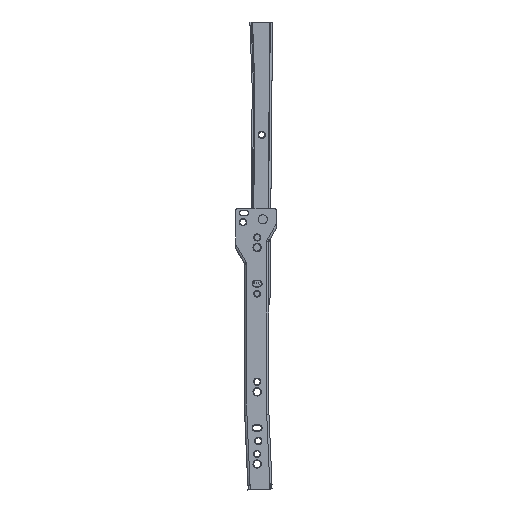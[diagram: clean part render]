
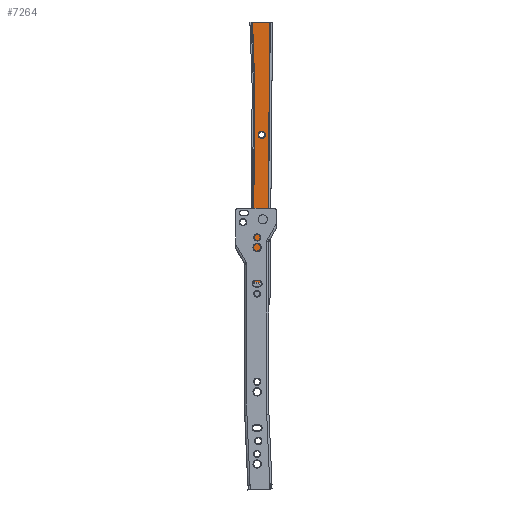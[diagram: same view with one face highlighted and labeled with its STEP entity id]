
A CAD part, left-side view. The second image highlights one B-rep face of the part: STEP entity #7264.
In plain terms, the highlighted planar face has unit normal (-1, 0, 0) as drawn and (0, 0, -1) by its records, which use the part's own axes.
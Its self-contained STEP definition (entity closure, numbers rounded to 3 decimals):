
#665=LINE('',#11921,#1195);
#666=LINE('',#11923,#1196);
#667=LINE('',#11925,#1197);
#668=LINE('',#11927,#1198);
#669=LINE('',#11931,#1199);
#670=LINE('',#11935,#1200);
#671=LINE('',#11938,#1201);
#1195=VECTOR('',#9692,250.);
#1196=VECTOR('',#9693,15.674);
#1197=VECTOR('',#9694,59.004);
#1198=VECTOR('',#9695,169.19);
#1199=VECTOR('',#9698,2.6);
#1200=VECTOR('',#9701,15.5);
#1201=VECTOR('',#9704,16.);
#1467=PLANE('',#7951);
#1620=FACE_BOUND('',#2498,.T.);
#1621=FACE_BOUND('',#2499,.T.);
#1622=FACE_BOUND('',#2500,.T.);
#1984=FACE_OUTER_BOUND('',#2497,.T.);
#2497=EDGE_LOOP('',(#5927,#5928,#5929,#5930,#5931,#5932,#5933,#5934,#5935,
#5936));
#2498=EDGE_LOOP('',(#5937));
#2499=EDGE_LOOP('',(#5938));
#2500=EDGE_LOOP('',(#5939));
#2950=CIRCLE('',#7950,3.2);
#2951=CIRCLE('',#7952,1.2);
#2952=CIRCLE('',#7953,2.);
#2953=CIRCLE('',#7954,2.);
#2954=CIRCLE('',#7955,3.2);
#2955=CIRCLE('',#7956,3.5);
#3484=VERTEX_POINT('',#11916);
#3485=VERTEX_POINT('',#11919);
#3486=VERTEX_POINT('',#11920);
#3487=VERTEX_POINT('',#11922);
#3488=VERTEX_POINT('',#11924);
#3489=VERTEX_POINT('',#11926);
#3490=VERTEX_POINT('',#11928);
#3491=VERTEX_POINT('',#11930);
#3492=VERTEX_POINT('',#11932);
#3493=VERTEX_POINT('',#11934);
#3494=VERTEX_POINT('',#11936);
#3495=VERTEX_POINT('',#11939);
#3496=VERTEX_POINT('',#11941);
#4342=EDGE_CURVE('',#3484,#3484,#2950,.T.);
#4343=EDGE_CURVE('',#3485,#3486,#665,.T.);
#4344=EDGE_CURVE('',#3487,#3485,#666,.T.);
#4345=EDGE_CURVE('',#3488,#3487,#667,.T.);
#4346=EDGE_CURVE('',#3489,#3488,#668,.T.);
#4347=EDGE_CURVE('',#3490,#3489,#2951,.T.);
#4348=EDGE_CURVE('',#3491,#3490,#669,.T.);
#4349=EDGE_CURVE('',#3492,#3491,#2952,.T.);
#4350=EDGE_CURVE('',#3493,#3492,#670,.T.);
#4351=EDGE_CURVE('',#3494,#3493,#2953,.T.);
#4352=EDGE_CURVE('',#3486,#3494,#671,.T.);
#4353=EDGE_CURVE('',#3495,#3495,#2954,.T.);
#4354=EDGE_CURVE('',#3496,#3496,#2955,.T.);
#5927=ORIENTED_EDGE('',*,*,#4343,.F.);
#5928=ORIENTED_EDGE('',*,*,#4344,.F.);
#5929=ORIENTED_EDGE('',*,*,#4345,.F.);
#5930=ORIENTED_EDGE('',*,*,#4346,.F.);
#5931=ORIENTED_EDGE('',*,*,#4347,.F.);
#5932=ORIENTED_EDGE('',*,*,#4348,.F.);
#5933=ORIENTED_EDGE('',*,*,#4349,.F.);
#5934=ORIENTED_EDGE('',*,*,#4350,.F.);
#5935=ORIENTED_EDGE('',*,*,#4351,.F.);
#5936=ORIENTED_EDGE('',*,*,#4352,.F.);
#5937=ORIENTED_EDGE('',*,*,#4353,.F.);
#5938=ORIENTED_EDGE('',*,*,#4354,.T.);
#5939=ORIENTED_EDGE('',*,*,#4342,.F.);
#7264=ADVANCED_FACE('',(#1984,#1620,#1621,#1622),#1467,.F.);
#7950=AXIS2_PLACEMENT_3D('',#11917,#9688,#9689);
#7951=AXIS2_PLACEMENT_3D('',#11918,#9690,#9691);
#7952=AXIS2_PLACEMENT_3D('',#11929,#9696,#9697);
#7953=AXIS2_PLACEMENT_3D('',#11933,#9699,#9700);
#7954=AXIS2_PLACEMENT_3D('',#11937,#9702,#9703);
#7955=AXIS2_PLACEMENT_3D('',#11940,#9705,#9706);
#7956=AXIS2_PLACEMENT_3D('',#11942,#9707,#9708);
#9688=DIRECTION('center_axis',(0.,0.,-1.));
#9689=DIRECTION('ref_axis',(-1.,0.,0.));
#9690=DIRECTION('center_axis',(0.,0.,1.));
#9691=DIRECTION('ref_axis',(1.,0.,0.));
#9692=DIRECTION('',(1.,0.,0.));
#9693=DIRECTION('',(0.,-1.,0.));
#9694=DIRECTION('',(-0.999,0.044,0.));
#9695=DIRECTION('',(-1.,0.,0.));
#9696=DIRECTION('center_axis',(0.,0.,-1.));
#9697=DIRECTION('ref_axis',(1.,0.,0.));
#9698=DIRECTION('',(0.,-1.,0.));
#9699=DIRECTION('center_axis',(0.,0.,1.));
#9700=DIRECTION('ref_axis',(0.,1.,0.));
#9701=DIRECTION('',(-1.,0.,0.));
#9702=DIRECTION('center_axis',(0.,0.,1.));
#9703=DIRECTION('ref_axis',(1.,0.,0.));
#9704=DIRECTION('',(0.,1.,0.));
#9705=DIRECTION('center_axis',(0.,0.,-1.));
#9706=DIRECTION('ref_axis',(-1.,0.,0.));
#9707=DIRECTION('center_axis',(0.,0.,1.));
#9708=DIRECTION('ref_axis',(-1.,0.,0.));
#11916=CARTESIAN_POINT('',(-31.8,-3.3,0.));
#11917=CARTESIAN_POINT('Origin',(-35.,-3.3,0.));
#11918=CARTESIAN_POINT('Origin',(-114.352,-2.896,0.));
#11919=CARTESIAN_POINT('',(-240.,-10.,0.));
#11920=CARTESIAN_POINT('',(10.,-10.,0.));
#11921=CARTESIAN_POINT('',(-177.176,-10.,0.));
#11922=CARTESIAN_POINT('',(-240.,5.674,0.));
#11923=CARTESIAN_POINT('',(-240.,8.076,0.));
#11924=CARTESIAN_POINT('',(-181.052,3.1,0.));
#11925=CARTESIAN_POINT('',(-147.648,1.642,0.));
#11926=CARTESIAN_POINT('',(-11.862,3.1,0.));
#11927=CARTESIAN_POINT('',(-63.126,3.1,0.));
#11928=CARTESIAN_POINT('',(-9.5,3.4,0.));
#11929=CARTESIAN_POINT('Origin',(-10.7,3.4,0.));
#11930=CARTESIAN_POINT('',(-9.5,6.,0.));
#11931=CARTESIAN_POINT('',(-9.5,6.,0.));
#11932=CARTESIAN_POINT('',(-7.5,8.,0.));
#11933=CARTESIAN_POINT('Origin',(-7.5,6.,0.));
#11934=CARTESIAN_POINT('',(8.,8.,0.));
#11935=CARTESIAN_POINT('',(8.,8.,0.));
#11936=CARTESIAN_POINT('',(10.,6.,0.));
#11937=CARTESIAN_POINT('Origin',(8.,6.,0.));
#11938=CARTESIAN_POINT('',(10.,-12.,0.));
#11939=CARTESIAN_POINT('',(-136.8,-3.3,0.));
#11940=CARTESIAN_POINT('Origin',(-140.,-3.3,0.));
#11941=CARTESIAN_POINT('',(3.5,0.,0.));
#11942=CARTESIAN_POINT('Origin',(0.,0.,0.));
